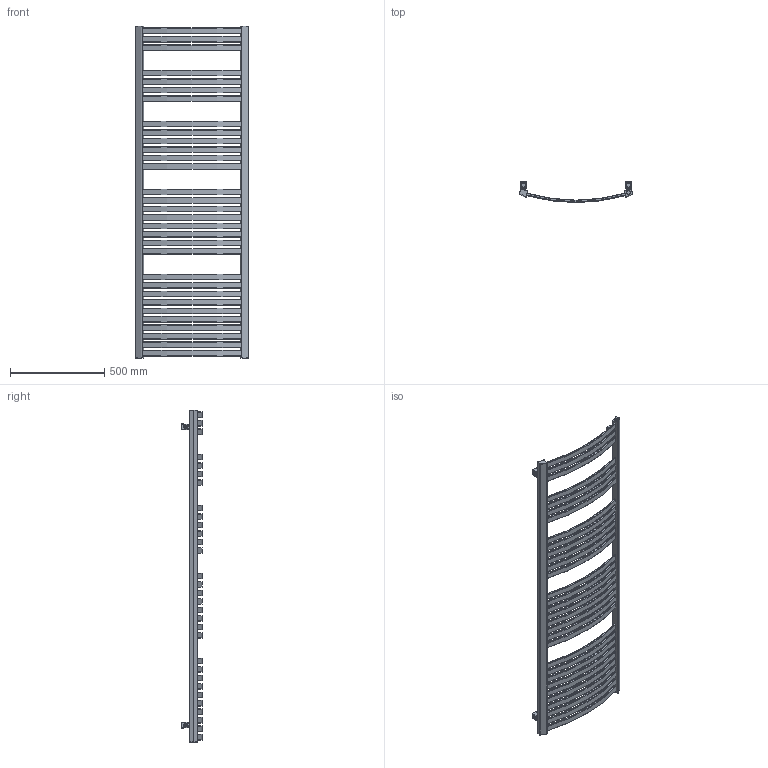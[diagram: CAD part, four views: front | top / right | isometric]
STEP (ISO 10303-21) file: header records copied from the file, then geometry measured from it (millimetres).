
FILE_DESCRIPTION((''),'2;1');
FILE_NAME('Z:\R\G\P\RGPH02 - Grzejnik Dexter\Work\Inventor\Marketing\Autocad\DE-1760-600 SX.stp','2012-07-12T13:30:57',('KurKa'),(''),'Autodesk Inventor 2012','Autodesk Inventor 2012','');
FILE_SCHEMA(('AUTOMOTIVE_DESIGN { 1 0 10303 214 1 1 1 1 }'));
Length unit declared in the file: millimetre
Products named in the file (10): DE-1760-600 SX; DE-1760-600-1-5-8; MKT42-00-B v0.2; MKT42-01 v0; MKT42-02-B v0; PN_M-82019; M6; NK-S10-M5-3-R; PN-87/M-82302 M5 x 22; PN-87/M-82302  M5 x 12; MKT42-03 v0.2
Assembly tree (12 placements, depth 3):
  DE-1760-600 SX
    DE-1760-600-1-5-8
    MKT42-00-B v0.2  x4
      MKT42-01 v0
      MKT42-02-B v0
      PN_M-82019; M6
      NK-S10-M5-3-R
      PN-87/M-82302 M5 x 22
      PN-87/M-82302  M5 x 12
      MKT42-03 v0.2
Bounding box: 599.85 x 109.43 x 1760 mm (x, y, z)
Volume: 9264444.4 mm3; surface area: 1820230.6 mm2
Topology: 29 solids, 29 shells, 1685 faces, 4615 edges, 3009 vertices
Faces by surface type: plane 1045, cylinder 389, torus 167, cone 44, bspline 40
Full cylindrical faces by diameter (mm): 4.134 x4, 5 x8, 5.5 x12, 6.3 x4, 8.5 x8, 10 x4, 18 x4, 18.631 x3
Entity records: 21768 total; most frequent: CARTESIAN_POINT 4199, DIRECTION 3808, ORIENTED_EDGE 3552, EDGE_CURVE 1776, AXIS2_PLACEMENT_3D 1425, VERTEX_POINT 1174, VECTOR 958, LINE 958
